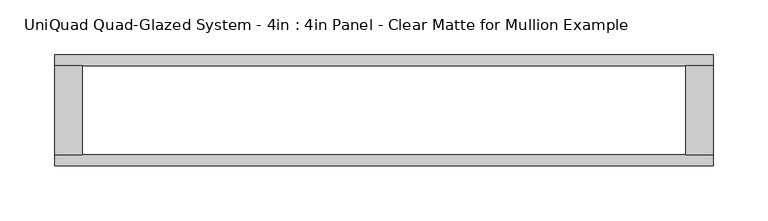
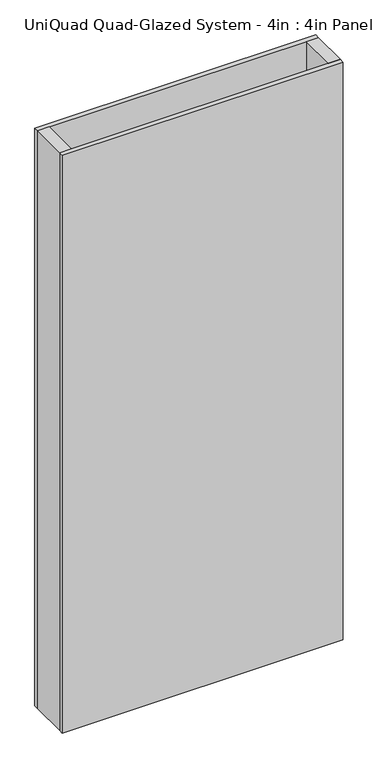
"""IFC4 building model written with IfcOpenShell, lengths in millimetres: plate geometry, UniQuad Quad-Glazed System - 4in : 4in Panel - Clear Matte for Mullion Example."""

from ifc_helpers import new_model, si_unit, origin, origin_with_axes, place, context, project, spatial, polyline, outline, extrude, source, transform, mapped, element, save


def uniquad_quad_glazed_system_4in_4in_panel_clear_matte_for_53d59329(model_context):
    return source(origin(), model_context, "Body", "SweptSolid", [
        extrude(outline(polyline([(-300.9800781, 40.7924), (-275.5800781, 40.7924), (-275.5800781, -40.7924), (-300.9800781, -40.7924), (-300.9800781, 40.7924)])), origin_with_axes(), (0.0, 0.0, 1.0), 1308.1),
        extrude(outline(polyline([(300.9800781, 40.7924), (300.9800781, -40.7924), (275.5800781, -40.7924), (275.5800781, 40.7924), (300.9800781, 40.7924)])), origin_with_axes(), (0.0, 0.0, 1.0), 1308.1),
        extrude(outline(polyline([(300.9800781, -40.7924), (300.9800781, -50.8), (-300.9800781, -50.8), (-300.9800781, -40.7924), (300.9800781, -40.7924)])), origin_with_axes(), (0.0, 0.0, 1.0), 1308.1),
        extrude(outline(polyline([(300.9800781, 50.8), (300.9800781, 40.7924), (-300.9800781, 40.7924), (-300.9800781, 50.8), (300.9800781, 50.8)])), origin_with_axes(), (0.0, 0.0, 1.0), 1308.1),
    ])


if __name__ == "__main__":
    model = new_model("IFC4")
    model_context = context("Model", 3, world=origin())
    ifc_project = project(units=[si_unit("LENGTHUNIT", "METRE", prefix="MILLI")], contexts=[model_context])
    site = spatial("IfcSite", under=ifc_project)
    building = spatial("IfcBuilding", under=site)
    placement = place(None, origin())
    uniquad_quad_glazed_system_4in_4in_panel_clear_matte_for_shape = uniquad_quad_glazed_system_4in_4in_panel_clear_matte_for_53d59329(model_context)
    element("IfcPlate", 1, ObjectType="UniQuad Quad-Glazed System - 4in : 4in Panel - Clear Matte for Mullion Example", at=placement, inside=building, context=model_context, shape_type="MappedRepresentation", body=[
        mapped(uniquad_quad_glazed_system_4in_4in_panel_clear_matte_for_shape, transform((0.0, 0.0, 0.0), x_axis=(1.0, 0.0, 0.0), y_axis=(0.0, 1.0, 0.0), z_axis=(0.0, 0.0, 1.0))),
    ])
    save(model, "model.ifc")
